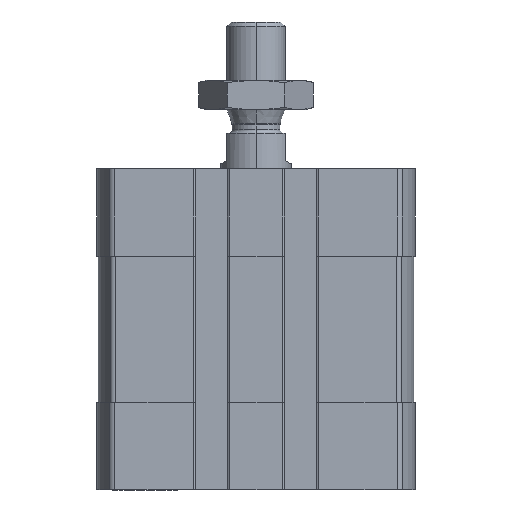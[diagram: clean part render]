
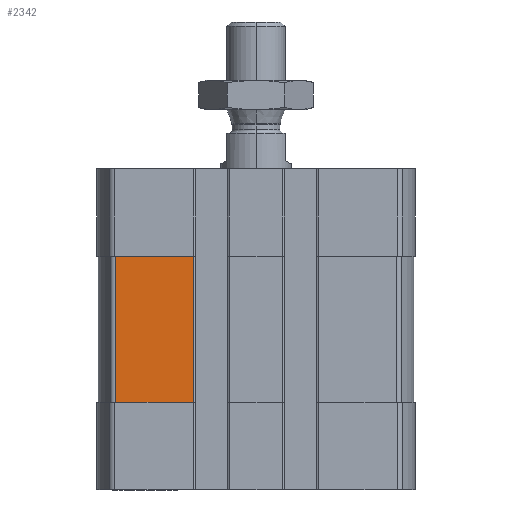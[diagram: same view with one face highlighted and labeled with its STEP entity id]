
A CAD part, left-side view. The second image highlights one B-rep face of the part: STEP entity #2342.
In plain terms, the highlighted planar face has unit normal (-1, 0, 0).
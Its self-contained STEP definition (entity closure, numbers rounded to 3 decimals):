
#40 = LINE ( 'NONE', #8644, #10142 ) ;
#51 = CARTESIAN_POINT ( 'NONE',  ( -27., 0., -15. ) ) ;
#225 = LINE ( 'NONE', #10424, #6519 ) ;
#299 = VECTOR ( 'NONE', #1296, 1000. ) ;
#1083 = LINE ( 'NONE', #51, #299 ) ;
#1296 = DIRECTION ( 'NONE',  ( 0., 1., 0. ) ) ;
#1791 = ORIENTED_EDGE ( 'NONE', *, *, #10827, .T. ) ;
#1864 = DIRECTION ( 'NONE',  ( 0., -1., 0. ) ) ;
#1984 = VERTEX_POINT ( 'NONE', #5299 ) ;
#2195 = AXIS2_PLACEMENT_3D ( 'NONE', #9630, #9279, #9232 ) ;
#2342 = ADVANCED_FACE ( 'NONE', ( #2695 ), #9390, .T. ) ;
#2343 = LINE ( 'NONE', #8199, #12056 ) ;
#2695 = FACE_OUTER_BOUND ( 'NONE', #8996, .T. ) ;
#4486 = ORIENTED_EDGE ( 'NONE', *, *, #8589, .T. ) ;
#4986 = VERTEX_POINT ( 'NONE', #7593 ) ;
#5299 = CARTESIAN_POINT ( 'NONE',  ( -27., 24.093, -15. ) ) ;
#6482 = EDGE_CURVE ( 'NONE', #1984, #4986, #40, .T. ) ;
#6519 = VECTOR ( 'NONE', #7894, 1000. ) ;
#6679 = EDGE_CURVE ( 'NONE', #7029, #12323, #225, .T. ) ;
#7029 = VERTEX_POINT ( 'NONE', #15196 ) ;
#7593 = CARTESIAN_POINT ( 'NONE',  ( -27., 24.093, -40. ) ) ;
#7771 = ORIENTED_EDGE ( 'NONE', *, *, #6679, .T. ) ;
#7894 = DIRECTION ( 'NONE',  ( 0., 0., 1. ) ) ;
#8199 = CARTESIAN_POINT ( 'NONE',  ( -27., 24.093, -40. ) ) ;
#8589 = EDGE_CURVE ( 'NONE', #4986, #7029, #2343, .T. ) ;
#8644 = CARTESIAN_POINT ( 'NONE',  ( -27., 24.093, -40. ) ) ;
#8996 = EDGE_LOOP ( 'NONE', ( #4486, #7771, #1791, #15735 ) ) ;
#9232 = DIRECTION ( 'NONE',  ( 0., 0., 1. ) ) ;
#9279 = DIRECTION ( 'NONE',  ( -1., 0., 0. ) ) ;
#9390 = PLANE ( 'NONE',  #2195 ) ;
#9630 = CARTESIAN_POINT ( 'NONE',  ( -27., 24.093, -40. ) ) ;
#10142 = VECTOR ( 'NONE', #14865, 1000. ) ;
#10424 = CARTESIAN_POINT ( 'NONE',  ( -27., 10.7, -40. ) ) ;
#10827 = EDGE_CURVE ( 'NONE', #12323, #1984, #1083, .T. ) ;
#11298 = CARTESIAN_POINT ( 'NONE',  ( -27., 10.7, -15. ) ) ;
#12056 = VECTOR ( 'NONE', #1864, 1000. ) ;
#12323 = VERTEX_POINT ( 'NONE', #11298 ) ;
#14865 = DIRECTION ( 'NONE',  ( 0., 0., -1. ) ) ;
#15196 = CARTESIAN_POINT ( 'NONE',  ( -27., 10.7, -40. ) ) ;
#15735 = ORIENTED_EDGE ( 'NONE', *, *, #6482, .T. ) ;
